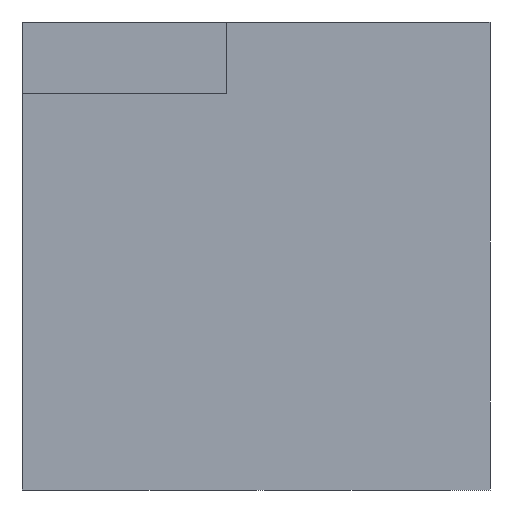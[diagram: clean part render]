
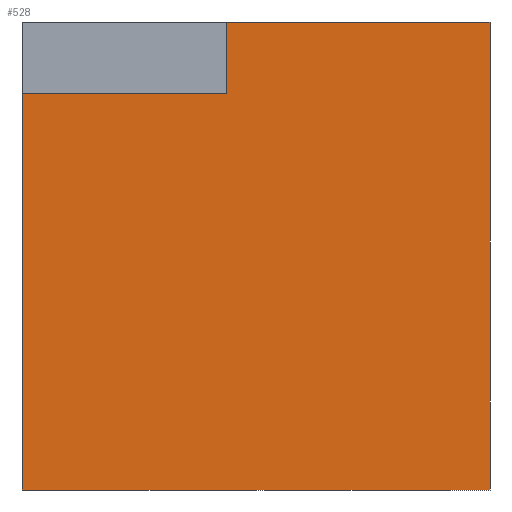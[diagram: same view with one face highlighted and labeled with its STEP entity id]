
A CAD part, left-side view. The second image highlights one B-rep face of the part: STEP entity #528.
In plain terms, the highlighted planar face has unit normal (-1, 0, 0).
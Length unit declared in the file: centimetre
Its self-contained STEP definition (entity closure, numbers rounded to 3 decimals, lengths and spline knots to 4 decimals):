
#4 = CARTESIAN_POINT ( 'NONE',  ( 0., 1000., 846.9736 ) ) ;
#65 = LINE ( 'NONE', #496, #686 ) ;
#79 = LINE ( 'NONE', #302, #475 ) ;
#104 = PLANE ( 'NONE',  #613 ) ;
#115 = EDGE_CURVE ( 'NONE', #491, #522, #387, .T. ) ;
#120 = ORIENTED_EDGE ( 'NONE', *, *, #115, .F. ) ;
#132 = VERTEX_POINT ( 'NONE', #633 ) ;
#135 = VERTEX_POINT ( 'NONE', #636 ) ;
#169 = CARTESIAN_POINT ( 'NONE',  ( 0., 562.2171, 1000. ) ) ;
#171 = ORIENTED_EDGE ( 'NONE', *, *, #301, .T. ) ;
#180 = ORIENTED_EDGE ( 'NONE', *, *, #335, .F. ) ;
#184 = LINE ( 'NONE', #517, #438 ) ;
#193 = ORIENTED_EDGE ( 'NONE', *, *, #555, .F. ) ;
#213 = DIRECTION ( 'NONE',  ( 0., 0., 1. ) ) ;
#219 = VERTEX_POINT ( 'NONE', #4 ) ;
#225 = DIRECTION ( 'NONE',  ( 0., 0., -1. ) ) ;
#231 = CARTESIAN_POINT ( 'NONE',  ( 0., 1000., 1000. ) ) ;
#252 = ORIENTED_EDGE ( 'NONE', *, *, #658, .F. ) ;
#257 = EDGE_CURVE ( 'NONE', #219, #135, #65, .T. ) ;
#262 = EDGE_LOOP ( 'NONE', ( #120, #180, #593, #171, #252, #193 ) ) ;
#275 = LINE ( 'NONE', #552, #278 ) ;
#278 = VECTOR ( 'NONE', #598, 100. ) ;
#281 = CARTESIAN_POINT ( 'NONE',  ( 0., 562.2171, 846.9736 ) ) ;
#301 = EDGE_CURVE ( 'NONE', #135, #343, #460, .T. ) ;
#302 = CARTESIAN_POINT ( 'NONE',  ( 0., 562.2171, 846.9736 ) ) ;
#335 = EDGE_CURVE ( 'NONE', #219, #491, #79, .T. ) ;
#343 = VERTEX_POINT ( 'NONE', #625 ) ;
#382 = CARTESIAN_POINT ( 'NONE',  ( 0., 562.2171, 846.9736 ) ) ;
#387 = LINE ( 'NONE', #382, #422 ) ;
#422 = VECTOR ( 'NONE', #213, 100. ) ;
#438 = VECTOR ( 'NONE', #607, 100. ) ;
#444 = DIRECTION ( 'NONE',  ( 0., 0., -1. ) ) ;
#460 = LINE ( 'NONE', #562, #583 ) ;
#475 = VECTOR ( 'NONE', #688, 100. ) ;
#491 = VERTEX_POINT ( 'NONE', #281 ) ;
#496 = CARTESIAN_POINT ( 'NONE',  ( 0., 1000., 1000. ) ) ;
#517 = CARTESIAN_POINT ( 'NONE',  ( 0., 0., 1000. ) ) ;
#522 = VERTEX_POINT ( 'NONE', #169 ) ;
#528 = ADVANCED_FACE ( 'NONE', ( #592 ), #104, .F. ) ;
#552 = CARTESIAN_POINT ( 'NONE',  ( 0., 1000., 1000. ) ) ;
#555 = EDGE_CURVE ( 'NONE', #522, #132, #275, .T. ) ;
#562 = CARTESIAN_POINT ( 'NONE',  ( 0., 1000., 0. ) ) ;
#583 = VECTOR ( 'NONE', #669, 100. ) ;
#592 = FACE_OUTER_BOUND ( 'NONE', #262, .T. ) ;
#593 = ORIENTED_EDGE ( 'NONE', *, *, #257, .T. ) ;
#595 = DIRECTION ( 'NONE',  ( 1., 0., 0. ) ) ;
#598 = DIRECTION ( 'NONE',  ( 0., -1., 0. ) ) ;
#607 = DIRECTION ( 'NONE',  ( 0., 0., -1. ) ) ;
#613 = AXIS2_PLACEMENT_3D ( 'NONE', #231, #595, #444 ) ;
#625 = CARTESIAN_POINT ( 'NONE',  ( 0., 0., 0. ) ) ;
#633 = CARTESIAN_POINT ( 'NONE',  ( 0., 0., 1000. ) ) ;
#636 = CARTESIAN_POINT ( 'NONE',  ( 0., 1000., 0. ) ) ;
#658 = EDGE_CURVE ( 'NONE', #132, #343, #184, .T. ) ;
#669 = DIRECTION ( 'NONE',  ( 0., -1., 0. ) ) ;
#686 = VECTOR ( 'NONE', #225, 100. ) ;
#688 = DIRECTION ( 'NONE',  ( 0., -1., 0. ) ) ;
